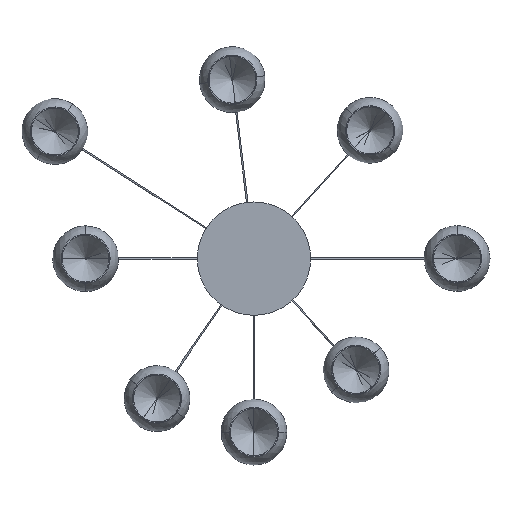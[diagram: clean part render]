
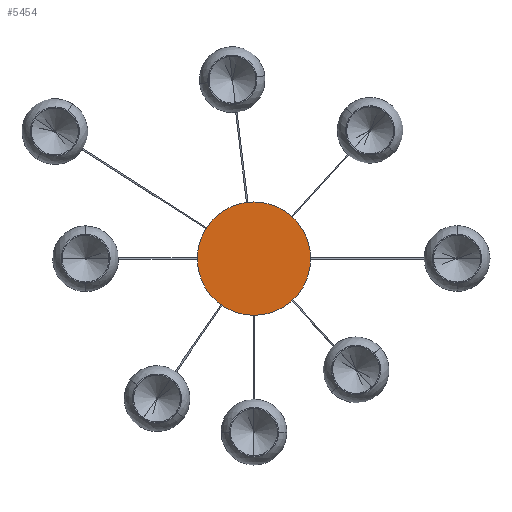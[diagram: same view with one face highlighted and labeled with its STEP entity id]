
A CAD part, front view. The second image highlights one B-rep face of the part: STEP entity #5454.
In plain terms, the highlighted planar face has unit normal (0, -1, 0).
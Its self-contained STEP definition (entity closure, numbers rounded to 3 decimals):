
#486 = AXIS2_PLACEMENT_3D ( 'NONE', #4174, #3698, #1164 ) ;
#1113 = CARTESIAN_POINT ( 'NONE',  ( 155., -17., 0. ) ) ;
#1145 = CARTESIAN_POINT ( 'NONE',  ( 0., -17., 0. ) ) ;
#1164 = DIRECTION ( 'NONE',  ( 0., 0., -1. ) ) ;
#1961 = CARTESIAN_POINT ( 'NONE',  ( 0., -17., -155. ) ) ;
#2304 = DIRECTION ( 'NONE',  ( 0., -1., 0. ) ) ;
#2690 = VERTEX_POINT ( 'NONE', #1961 ) ;
#2737 = EDGE_LOOP ( 'NONE', ( #4502, #3551 ) ) ;
#3512 = AXIS2_PLACEMENT_3D ( 'NONE', #1145, #3524, #7244 ) ;
#3524 = DIRECTION ( 'NONE',  ( 0., -1., 0. ) ) ;
#3551 = ORIENTED_EDGE ( 'NONE', *, *, #5561, .T. ) ;
#3698 = DIRECTION ( 'NONE',  ( 0., -1., 0. ) ) ;
#4174 = CARTESIAN_POINT ( 'NONE',  ( 0., -17., 0. ) ) ;
#4502 = ORIENTED_EDGE ( 'NONE', *, *, #5897, .T. ) ;
#4668 = AXIS2_PLACEMENT_3D ( 'NONE', #1113, #2304, #4799 ) ;
#4799 = DIRECTION ( 'NONE',  ( 0., 0., -1. ) ) ;
#5345 = PLANE ( 'NONE',  #4668 ) ;
#5381 = FACE_OUTER_BOUND ( 'NONE', #2737, .T. ) ;
#5454 = ADVANCED_FACE ( 'NONE', ( #5381 ), #5345, .T. ) ;
#5561 = EDGE_CURVE ( 'NONE', #5708, #2690, #6925, .T. ) ;
#5708 = VERTEX_POINT ( 'NONE', #6806 ) ;
#5897 = EDGE_CURVE ( 'NONE', #2690, #5708, #7070, .T. ) ;
#6806 = CARTESIAN_POINT ( 'NONE',  ( 0., -17., 155. ) ) ;
#6925 = CIRCLE ( 'NONE', #3512, 155. ) ;
#7070 = CIRCLE ( 'NONE', #486, 155. ) ;
#7244 = DIRECTION ( 'NONE',  ( 0., 0., -1. ) ) ;
